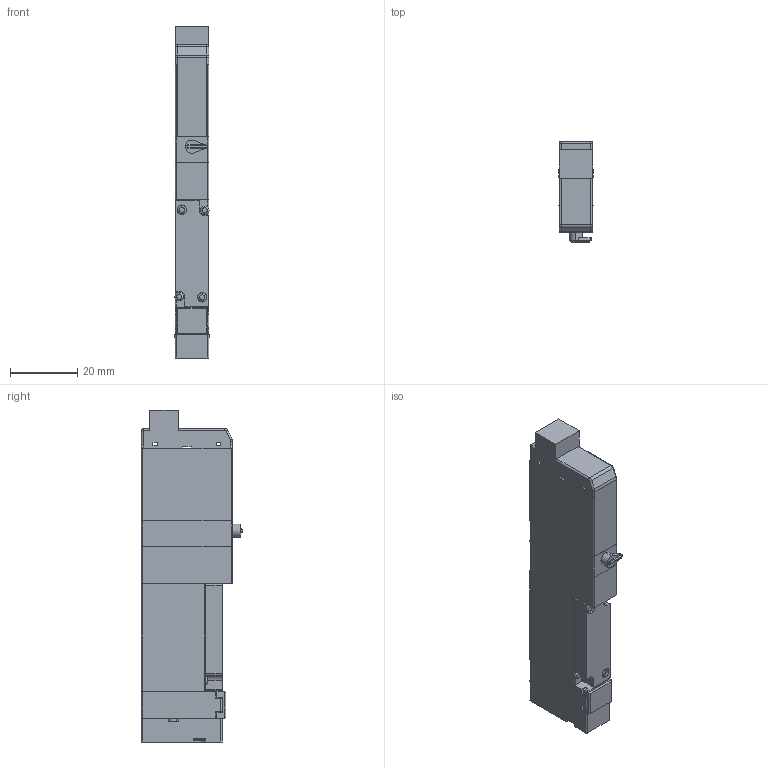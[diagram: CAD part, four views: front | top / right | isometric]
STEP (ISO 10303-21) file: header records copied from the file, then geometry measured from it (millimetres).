
FILE_DESCRIPTION( (''), '2;1');
FILE_NAME ('CVICAD02.13484.F10T1-R-A1-PN_5839.stp','2020-09-01T14:10:29',(''),(''),'spGate 12.6.6','','');
FILE_SCHEMA (('AUTOMOTIVE_DESIGN'));
Length unit declared in the file: millimetre
Products named in the file (8): Assembly; F10_Adptor; F10_Cap; F10_SwitchBlock1; F10T_Body; F_3PortBody-R; F_Connector-PN; F10_A1
Assembly tree (7 placements, depth 2):
  Assembly
    F10_Adptor
    F10_Cap
    F10_SwitchBlock1
    F10T_Body
    F_3PortBody-R
    F_Connector-PN
    F10_A1
Bounding box: 10.2 x 30 x 98.5 mm (x, y, z)
Volume: 23748.3 mm3; surface area: 11128.6 mm2
Topology: 7 solids, 7 shells, 299 faces, 768 edges, 494 vertices
Faces by surface type: plane 175, cylinder 98, bspline 20, sphere 6
Entity records: 15678 total; most frequent: CARTESIAN_POINT 2004, DIRECTION 1545, ORIENTED_EDGE 1524, COLOUR_RGB 1068, PRESENTATION_STYLE_ASSIGNMENT 1068, STYLED_ITEM 1068, EDGE_CURVE 762, DRAUGHTING_PRE_DEFINED_CURVE_FONT 762
